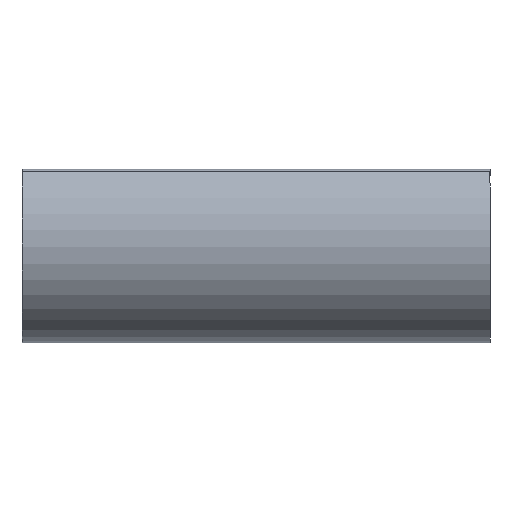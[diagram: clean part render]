
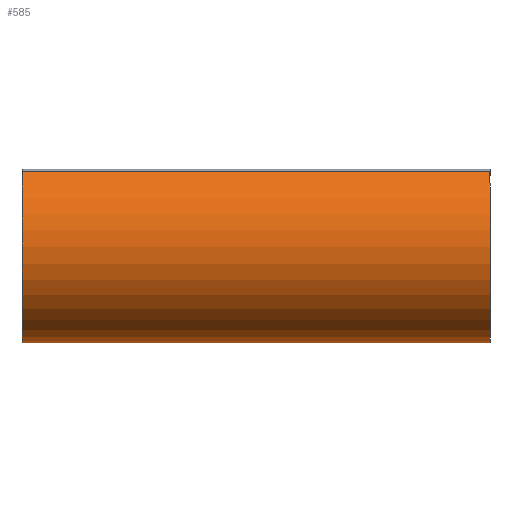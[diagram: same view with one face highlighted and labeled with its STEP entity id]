
A CAD part, left-side view. The second image highlights one B-rep face of the part: STEP entity #585.
In plain terms, the highlighted cylindrical face has radius 21.2 mm (diameter 42.4 mm), a partial arc.
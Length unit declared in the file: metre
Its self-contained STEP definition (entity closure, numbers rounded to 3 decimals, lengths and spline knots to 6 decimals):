
#38=CIRCLE('',#647,0.0212);
#39=CIRCLE('',#648,0.0212);
#53=CYLINDRICAL_SURFACE('',#646,0.0212);
#132=ORIENTED_EDGE('',*,*,#286,.F.);
#133=ORIENTED_EDGE('',*,*,#261,.F.);
#134=ORIENTED_EDGE('',*,*,#287,.T.);
#135=ORIENTED_EDGE('',*,*,#233,.T.);
#233=EDGE_CURVE('',#318,#316,#370,.T.);
#261=EDGE_CURVE('',#339,#338,#391,.T.);
#286=EDGE_CURVE('',#338,#316,#38,.T.);
#287=EDGE_CURVE('',#339,#318,#39,.T.);
#316=VERTEX_POINT('',#854);
#318=VERTEX_POINT('',#857);
#338=VERTEX_POINT('',#911);
#339=VERTEX_POINT('',#913);
#370=LINE('',#856,#430);
#391=LINE('',#914,#451);
#430=VECTOR('',#683,1.);
#451=VECTOR('',#734,1.);
#503=EDGE_LOOP('',(#132,#133,#134,#135));
#535=FACE_BOUND('',#503,.T.);
#585=ADVANCED_FACE('',(#535),#53,.T.);
#646=AXIS2_PLACEMENT_3D('',#963,#783,#784);
#647=AXIS2_PLACEMENT_3D('',#964,#785,#786);
#648=AXIS2_PLACEMENT_3D('',#965,#787,#788);
#683=DIRECTION('',(0.,1.,0.));
#734=DIRECTION('',(0.,1.,0.));
#783=DIRECTION('',(0.,1.,0.));
#784=DIRECTION('',(0.,0.,1.));
#785=DIRECTION('',(0.,1.,0.));
#786=DIRECTION('',(0.,0.,1.));
#787=DIRECTION('',(0.,1.,0.));
#788=DIRECTION('',(0.,0.,1.));
#854=CARTESIAN_POINT('',(-0.014582,0.05,0.015389));
#856=CARTESIAN_POINT('',(-0.014582,-0.05,0.015389));
#857=CARTESIAN_POINT('',(-0.014582,-0.05,0.015389));
#911=CARTESIAN_POINT('',(0.014582,0.05,0.015389));
#913=CARTESIAN_POINT('',(0.014582,-0.05,0.015389));
#914=CARTESIAN_POINT('',(0.014582,-0.05,0.015389));
#963=CARTESIAN_POINT('',(0.,-0.05,0.));
#964=CARTESIAN_POINT('',(0.,0.05,0.));
#965=CARTESIAN_POINT('',(0.,-0.05,0.));
